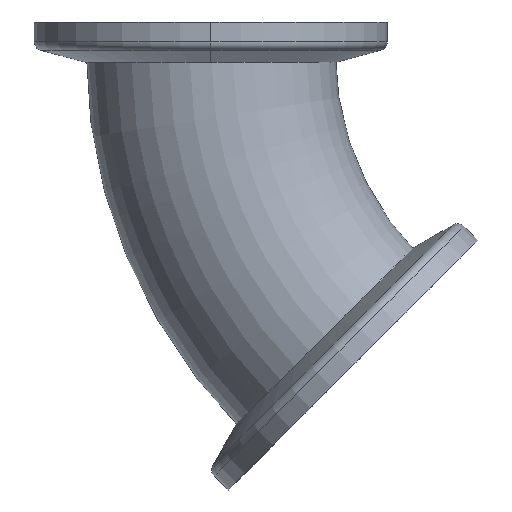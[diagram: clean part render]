
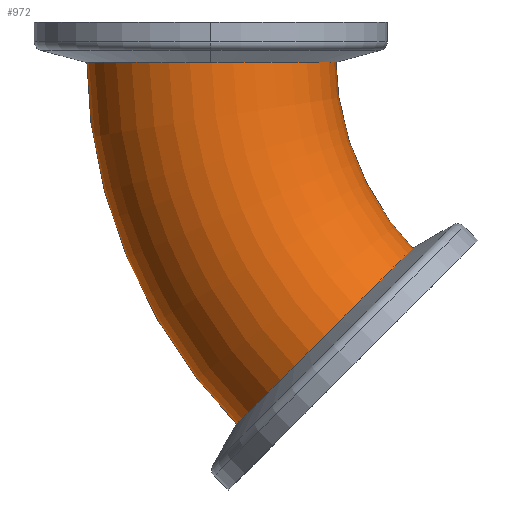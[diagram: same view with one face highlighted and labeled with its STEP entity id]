
A CAD part, left-side view. The second image highlights one B-rep face of the part: STEP entity #972.
In plain terms, the highlighted toroidal (fillet/blend) face has major radius 46.5 mm and minor radius 14.1 mm.
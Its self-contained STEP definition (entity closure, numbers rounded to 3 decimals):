
#13 = DIRECTION ( 'NONE',  ( 0., 0., -1. ) ) ;
#18 = AXIS2_PLACEMENT_3D ( 'NONE', #234, #385, #467 ) ;
#27 = DIRECTION ( 'NONE',  ( 0., 0., -1. ) ) ;
#68 = CIRCLE ( 'NONE', #86, 14.1 ) ;
#86 = AXIS2_PLACEMENT_3D ( 'NONE', #431, #13, #820 ) ;
#108 = ORIENTED_EDGE ( 'NONE', *, *, #750, .F. ) ;
#145 = AXIS2_PLACEMENT_3D ( 'NONE', #657, #978, #27 ) ;
#172 = CARTESIAN_POINT ( 'NONE',  ( 0., -23.59, -26.41 ) ) ;
#174 = AXIS2_PLACEMENT_3D ( 'NONE', #843, #515, #690 ) ;
#190 = AXIS2_PLACEMENT_3D ( 'NONE', #799, #713, #879 ) ;
#203 = ORIENTED_EDGE ( 'NONE', *, *, #603, .T. ) ;
#206 = CARTESIAN_POINT ( 'NONE',  ( 0., 14.1, -3.5 ) ) ;
#234 = CARTESIAN_POINT ( 'NONE',  ( 0., -46.5, -3.5 ) ) ;
#385 = DIRECTION ( 'NONE',  ( 1., 0., 0. ) ) ;
#431 = CARTESIAN_POINT ( 'NONE',  ( 0., 0., -3.5 ) ) ;
#457 = VERTEX_POINT ( 'NONE', #206 ) ;
#467 = DIRECTION ( 'NONE',  ( 0., 0., -1. ) ) ;
#506 = VERTEX_POINT ( 'NONE', #827 ) ;
#515 = DIRECTION ( 'NONE',  ( 1., 0., 0. ) ) ;
#520 = TOROIDAL_SURFACE ( 'NONE', #145, 46.5, 14.1 ) ;
#529 = EDGE_LOOP ( 'NONE', ( #108, #812, #203, #1012 ) ) ;
#603 = EDGE_CURVE ( 'NONE', #865, #506, #988, .T. ) ;
#620 = FACE_OUTER_BOUND ( 'NONE', #529, .T. ) ;
#652 = CIRCLE ( 'NONE', #190, 14.1 ) ;
#657 = CARTESIAN_POINT ( 'NONE',  ( 0., -46.5, -3.5 ) ) ;
#690 = DIRECTION ( 'NONE',  ( 0., 0., -1. ) ) ;
#713 = DIRECTION ( 'NONE',  ( 0., -0.707, -0.707 ) ) ;
#750 = EDGE_CURVE ( 'NONE', #929, #457, #905, .T. ) ;
#799 = CARTESIAN_POINT ( 'NONE',  ( 0., -13.62, -36.38 ) ) ;
#807 = CARTESIAN_POINT ( 'NONE',  ( 0., -3.649, -46.351 ) ) ;
#812 = ORIENTED_EDGE ( 'NONE', *, *, #844, .F. ) ;
#820 = DIRECTION ( 'NONE',  ( -1., 0., 0. ) ) ;
#827 = CARTESIAN_POINT ( 'NONE',  ( 0., -14.1, -3.5 ) ) ;
#843 = CARTESIAN_POINT ( 'NONE',  ( 0., -46.5, -3.5 ) ) ;
#844 = EDGE_CURVE ( 'NONE', #865, #929, #652, .T. ) ;
#865 = VERTEX_POINT ( 'NONE', #172 ) ;
#879 = DIRECTION ( 'NONE',  ( -1., 0., 0. ) ) ;
#884 = EDGE_CURVE ( 'NONE', #506, #457, #68, .T. ) ;
#905 = CIRCLE ( 'NONE', #18, 60.6 ) ;
#929 = VERTEX_POINT ( 'NONE', #807 ) ;
#972 = ADVANCED_FACE ( 'NONE', ( #620 ), #520, .T. ) ;
#978 = DIRECTION ( 'NONE',  ( 1., 0., 0. ) ) ;
#988 = CIRCLE ( 'NONE', #174, 32.4 ) ;
#1012 = ORIENTED_EDGE ( 'NONE', *, *, #884, .T. ) ;
